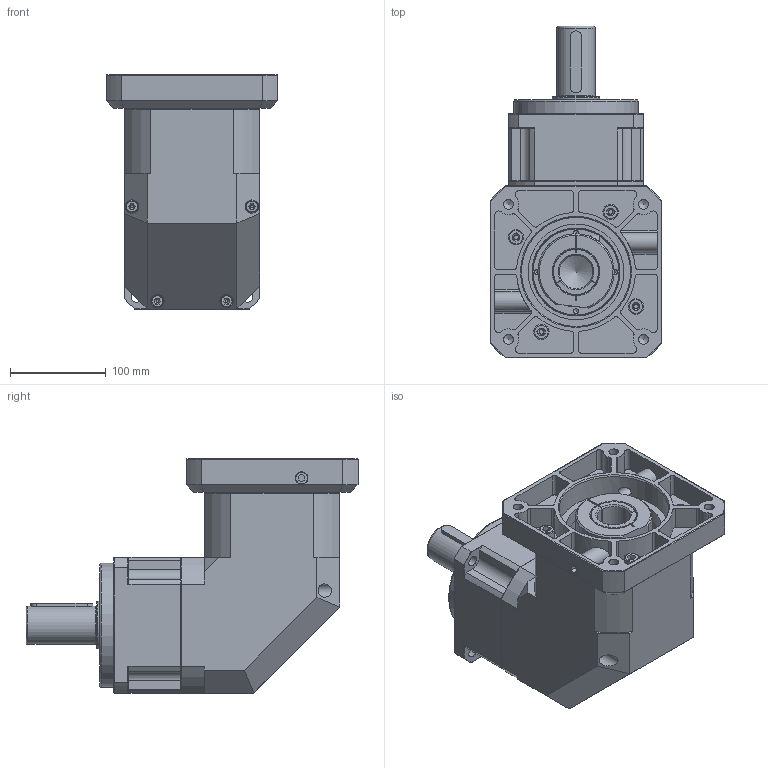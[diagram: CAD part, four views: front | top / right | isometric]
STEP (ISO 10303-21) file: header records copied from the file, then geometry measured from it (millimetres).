
FILE_DESCRIPTION((''),'2;1');
FILE_NAME('C:\Work\감속기 카다로그 도면\ATG Reducer(홈페이지)\PBL-H\STP\PBL142-H-1.stp','2014-05-27T14:52:58',('young'),(''),'Autodesk Inventor 2012','Autodesk Inventor 2012','');
FILE_SCHEMA(('AUTOMOTIVE_DESIGN { 1 0 10303 214 1 1 1 1 }'));
Length unit declared in the file: millimetre
Products named in the file (1): PBL142-H-1
Bounding box: 180 x 347.5 x 245 mm (x, y, z)
Volume: 4797109.8 mm3; surface area: 550634.4 mm2
Topology: 21 solids, 21 shells, 737 faces, 1867 edges, 1233 vertices
Faces by surface type: plane 397, cylinder 202, cone 101, torus 19, bspline 18
Full cylindrical faces by diameter (mm): 5 x4, 6.8 x4, 8 x4, 8.5 x8, 8.6 x1, 10 x9, 10.2 x5, 10.5 x4, 11 x5, 11.125 x2, 12 x1, 13 x6, 14 x4, 16 x5, 25 x1, 35 x1, 40 x1, 48.4 x1, 49.8 x2, 50 x2, 62 x1, 68 x1, 70 x1, 72 x5, 75 x1, 80 x1, 92 x2, 100 x1, 114.3 x1, 118 x1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
Entity records: 29059 total; most frequent: CARTESIAN_POINT 12251, DIRECTION 3401, ORIENTED_EDGE 3310, EDGE_CURVE 1655, AXIS2_PLACEMENT_3D 1299, VERTEX_POINT 1189, EDGE_LOOP 1008, VECTOR 803
